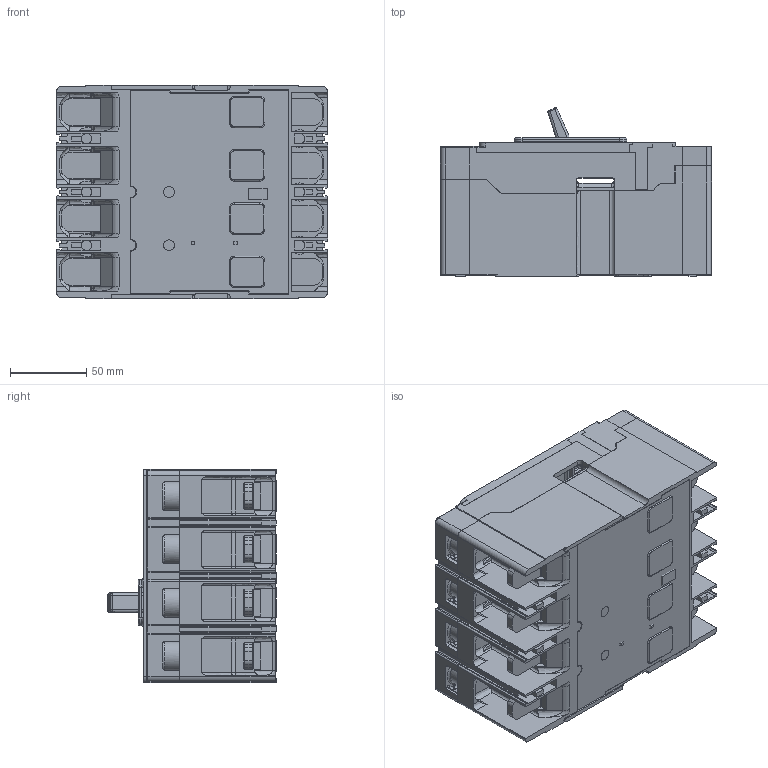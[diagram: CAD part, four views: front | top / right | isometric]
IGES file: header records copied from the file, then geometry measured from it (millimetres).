
Start section:  PTC IGES file: /data/CUSTOMERS/EATON/Eaton-Penn/translation-050503/iges /jg_4p_shrinkwrap.igs
Global section: file name: /data/CUSTOMERS/EATON/Eaton-Penn/translation-050503/iges/jg_4p_shrinkwrap.igs; native system: Pro/ENGINEER by Parametric Technology Corporation; preprocessor: 2001150; author: hopkin_m; organization: Unknown; date: 030508.095927; units: inch
Bounding box: 177.8 x 110.57 x 139.73 mm (x, y, z)
Surface area: 287250.5 mm2 (no closed solid volume)
Topology: 0 solids, 0 shells, 2464 faces, 13941 edges, 13933 vertices
Faces by surface type: bspline 1332, revolution 1132
